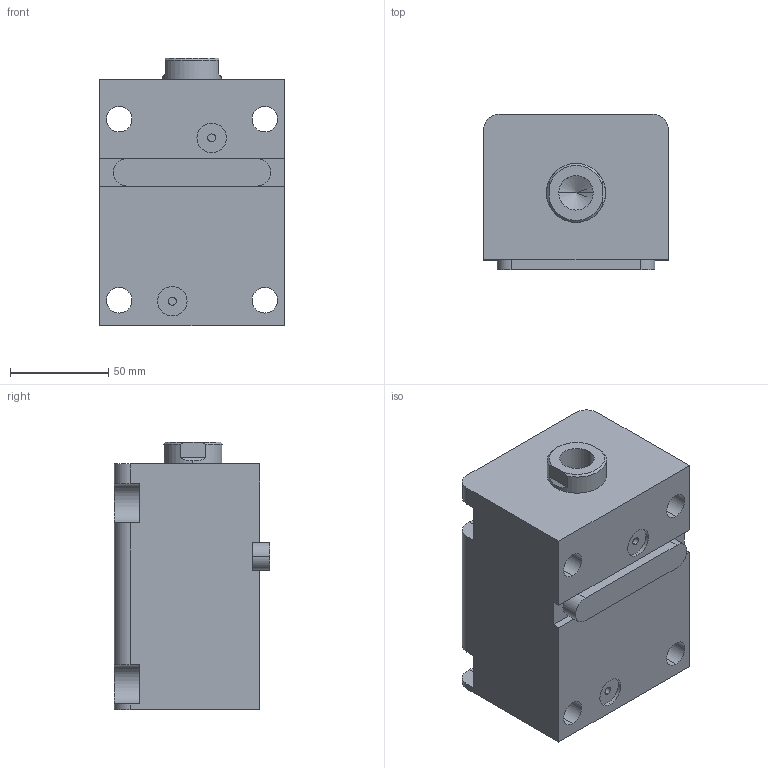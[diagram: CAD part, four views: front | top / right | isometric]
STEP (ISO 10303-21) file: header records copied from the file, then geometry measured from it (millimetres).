
FILE_DESCRIPTION (( 'STEP AP203' ), '1' );
FILE_NAME ('HTB-LAM50-65N.STEP', '2023-03-20T01:07:22', ( '微软用户' ), ( '微软中国' ), 'SwSTEP 2.0', 'SolidWorks 2012', '' );
FILE_SCHEMA (( 'CONFIG_CONTROL_DESIGN' ));
Length unit declared in the file: millimetre
Products named in the file (4): HTB-LAM50-65N; HTB-LWM50-瑩; HTB-LAM50-65N活塞杆; HTB-LAM50-65掛极
Assembly tree (3 placements, depth 2):
  HTB-LAM50-65N
    HTB-LAM50-65掛极
    HTB-LAM50-65N活塞杆
    HTB-LWM50-瑩
Bounding box: 94 x 79 x 136 mm (x, y, z)
Volume: 738954.7 mm3; surface area: 107561.5 mm2
Topology: 3 solids, 3 shells, 86 faces, 213 edges, 139 vertices
Faces by surface type: cylinder 39, plane 39, torus 4, cone 4
Entity records: 3001 total; most frequent: DIRECTION 475, CARTESIAN_POINT 470, ORIENTED_EDGE 422, EDGE_CURVE 211, AXIS2_PLACEMENT_3D 180, VERTEX_POINT 139, VECTOR 115, LINE 115
